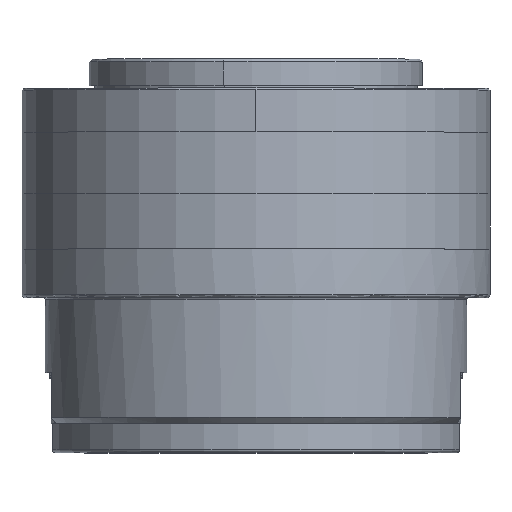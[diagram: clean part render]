
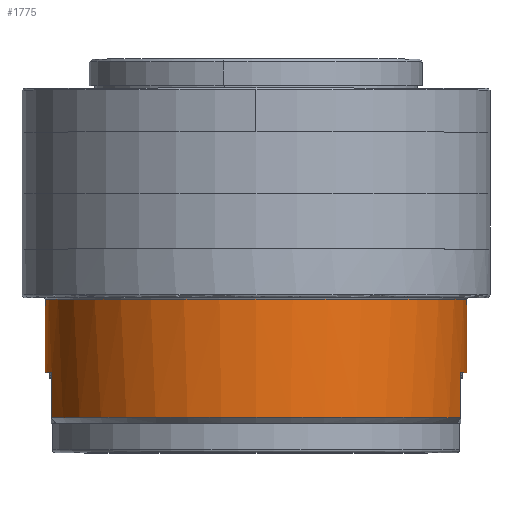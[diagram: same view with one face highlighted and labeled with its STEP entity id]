
A CAD part, top view. The second image highlights one B-rep face of the part: STEP entity #1775.
In plain terms, the highlighted cylindrical face has radius 36 mm (diameter 72 mm), a partial arc.
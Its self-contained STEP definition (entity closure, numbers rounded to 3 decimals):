
#1775 = ADVANCED_FACE ( 'NONE', ( #55237 ), #83805, .T. ) ;
#2583 = CARTESIAN_POINT ( 'NONE',  ( 33.314, 5.4, 0. ) ) ;
#4404 = CARTESIAN_POINT ( 'NONE',  ( 33.314, -7.1, 0. ) ) ;
#6424 = CARTESIAN_POINT ( 'NONE',  ( -2.686, 5.4, 0. ) ) ;
#6615 = AXIS2_PLACEMENT_3D ( 'NONE', #54037, #22078, #53490 ) ;
#7119 = EDGE_CURVE ( 'NONE', #81474, #17096, #54895, .T. ) ;
#7842 = CARTESIAN_POINT ( 'NONE',  ( -38.686, 5.4, 0. ) ) ;
#8182 = EDGE_CURVE ( 'NONE', #26738, #42427, #49551, .T. ) ;
#8231 = VERTEX_POINT ( 'NONE', #7842 ) ;
#9740 = ORIENTED_EDGE ( 'NONE', *, *, #82222, .F. ) ;
#10456 = ORIENTED_EDGE ( 'NONE', *, *, #23358, .T. ) ;
#10682 = CARTESIAN_POINT ( 'NONE',  ( -37.608, -14.8, 8.743 ) ) ;
#13567 = VECTOR ( 'NONE', #81255, 1000. ) ;
#16850 = CARTESIAN_POINT ( 'NONE',  ( -37.608, -7.1, 8.743 ) ) ;
#17096 = VERTEX_POINT ( 'NONE', #2583 ) ;
#17425 = CARTESIAN_POINT ( 'NONE',  ( -38.234, -7.1, 5.869 ) ) ;
#18271 = DIRECTION ( 'NONE',  ( 0., -1., 0. ) ) ;
#19020 = DIRECTION ( 'NONE',  ( 0., 0., -1. ) ) ;
#20147 = DIRECTION ( 'NONE',  ( 0., 1., 0. ) ) ;
#21196 = AXIS2_PLACEMENT_3D ( 'NONE', #32367, #78224, #78505 ) ;
#22078 = DIRECTION ( 'NONE',  ( 0., 1., 0. ) ) ;
#23358 = EDGE_CURVE ( 'NONE', #17096, #8231, #72610, .T. ) ;
#26738 = VERTEX_POINT ( 'NONE', #10682 ) ;
#29363 = VECTOR ( 'NONE', #18271, 1000. ) ;
#29518 = ORIENTED_EDGE ( 'NONE', *, *, #46463, .F. ) ;
#32222 = CARTESIAN_POINT ( 'NONE',  ( -38.686, -92.269, 0. ) ) ;
#32367 = CARTESIAN_POINT ( 'NONE',  ( -2.686, -7.1, 0. ) ) ;
#34639 = ORIENTED_EDGE ( 'NONE', *, *, #8182, .T. ) ;
#35506 = CARTESIAN_POINT ( 'NONE',  ( 32.237, -7.1, 8.743 ) ) ;
#35631 = VECTOR ( 'NONE', #57590, 1000. ) ;
#36784 = CARTESIAN_POINT ( 'NONE',  ( -37.608, -92.269, 8.743 ) ) ;
#36788 = CARTESIAN_POINT ( 'NONE',  ( -37.965, -7.1, 7.315 ) ) ;
#37582 = VECTOR ( 'NONE', #20147, 1000. ) ;
#39200 = AXIS2_PLACEMENT_3D ( 'NONE', #60180, #79574, #47426 ) ;
#39204 = DIRECTION ( 'NONE',  ( 0., -1., 0. ) ) ;
#40158 = ORIENTED_EDGE ( 'NONE', *, *, #66405, .T. ) ;
#41775 = ORIENTED_EDGE ( 'NONE', *, *, #64667, .T. ) ;
#42427 = VERTEX_POINT ( 'NONE', #47446 ) ;
#43622 = VERTEX_POINT ( 'NONE', #35506 ) ;
#46357 = CARTESIAN_POINT ( 'NONE',  ( 33.314, -92.269, 0. ) ) ;
#46463 = EDGE_CURVE ( 'NONE', #49288, #50417, #83794, .T. ) ;
#47426 = DIRECTION ( 'NONE',  ( 1., 0., 0. ) ) ;
#47446 = CARTESIAN_POINT ( 'NONE',  ( 32.237, -14.8, 8.743 ) ) ;
#49288 = VERTEX_POINT ( 'NONE', #65904 ) ;
#49551 = CIRCLE ( 'NONE', #6615, 36. ) ;
#50417 = VERTEX_POINT ( 'NONE', #79657 ) ;
#52390 = LINE ( 'NONE', #60985, #13567 ) ;
#52773 = ORIENTED_EDGE ( 'NONE', *, *, #7119, .T. ) ;
#52962 = LINE ( 'NONE', #32222, #35631 ) ;
#53490 = DIRECTION ( 'NONE',  ( 0., 0., -1. ) ) ;
#54037 = CARTESIAN_POINT ( 'NONE',  ( -2.686, -14.8, 0. ) ) ;
#54895 = LINE ( 'NONE', #46357, #37582 ) ;
#55237 = FACE_OUTER_BOUND ( 'NONE', #65172, .T. ) ;
#57590 = DIRECTION ( 'NONE',  ( 0., 1., 0. ) ) ;
#60180 = CARTESIAN_POINT ( 'NONE',  ( -2.686, -92.269, 0. ) ) ;
#60985 = CARTESIAN_POINT ( 'NONE',  ( 32.237, -92.269, 8.743 ) ) ;
#62689 = CARTESIAN_POINT ( 'NONE',  ( -38.595, -7.1, 2.94 ) ) ;
#62694 = ORIENTED_EDGE ( 'NONE', *, *, #78634, .F. ) ;
#63707 = AXIS2_PLACEMENT_3D ( 'NONE', #6424, #39204, #19020 ) ;
#64667 = EDGE_CURVE ( 'NONE', #42427, #43622, #52390, .T. ) ;
#65172 = EDGE_LOOP ( 'NONE', ( #9740, #29518, #40158, #34639, #41775, #62694, #52773, #10456 ) ) ;
#65904 = CARTESIAN_POINT ( 'NONE',  ( -37.608, -7.1, 8.743 ) ) ;
#66405 = EDGE_CURVE ( 'NONE', #49288, #26738, #75206, .T. ) ;
#68977 = CARTESIAN_POINT ( 'NONE',  ( -38.686, -7.1, 0. ) ) ;
#72610 = CIRCLE ( 'NONE', #63707, 36. ) ;
#75206 = LINE ( 'NONE', #36784, #29363 ) ;
#75729 = CIRCLE ( 'NONE', #21196, 36. ) ;
#78224 = DIRECTION ( 'NONE',  ( 0., -1., 0. ) ) ;
#78505 = DIRECTION ( 'NONE',  ( 0., 0., -1. ) ) ;
#78634 = EDGE_CURVE ( 'NONE', #81474, #43622, #75729, .T. ) ;
#79574 = DIRECTION ( 'NONE',  ( 0., 1., 0. ) ) ;
#79657 = CARTESIAN_POINT ( 'NONE',  ( -38.686, -7.1, 0. ) ) ;
#81255 = DIRECTION ( 'NONE',  ( 0., 1., 0. ) ) ;
#81474 = VERTEX_POINT ( 'NONE', #4404 ) ;
#82222 = EDGE_CURVE ( 'NONE', #50417, #8231, #52962, .T. ) ;
#82388 = CARTESIAN_POINT ( 'NONE',  ( -38.686, -7.1, 1.472 ) ) ;
#83794 = B_SPLINE_CURVE_WITH_KNOTS ( 'NONE', 3,
 ( #16850, #36788, #17425, #62689, #82388, #68977 ),
 .UNSPECIFIED., .F., .F.,
 ( 4, 2, 4 ),
 ( 0., 0.5, 1. ),
 .UNSPECIFIED. ) ;
#83805 = CYLINDRICAL_SURFACE ( 'NONE', #39200, 36. ) ;
